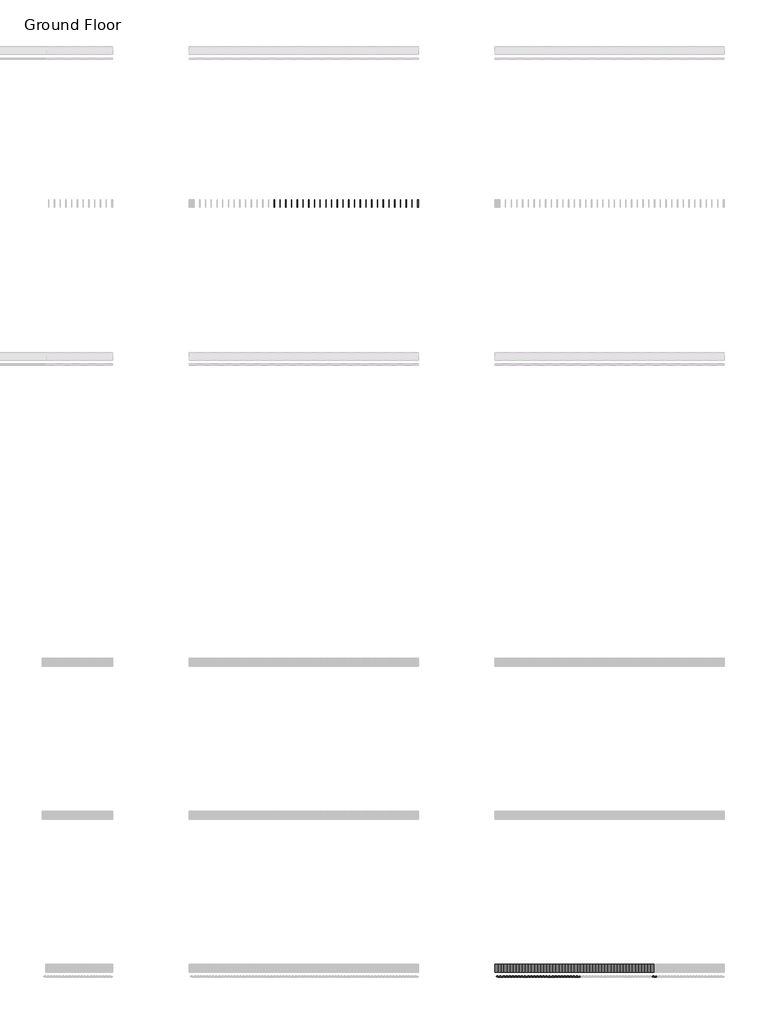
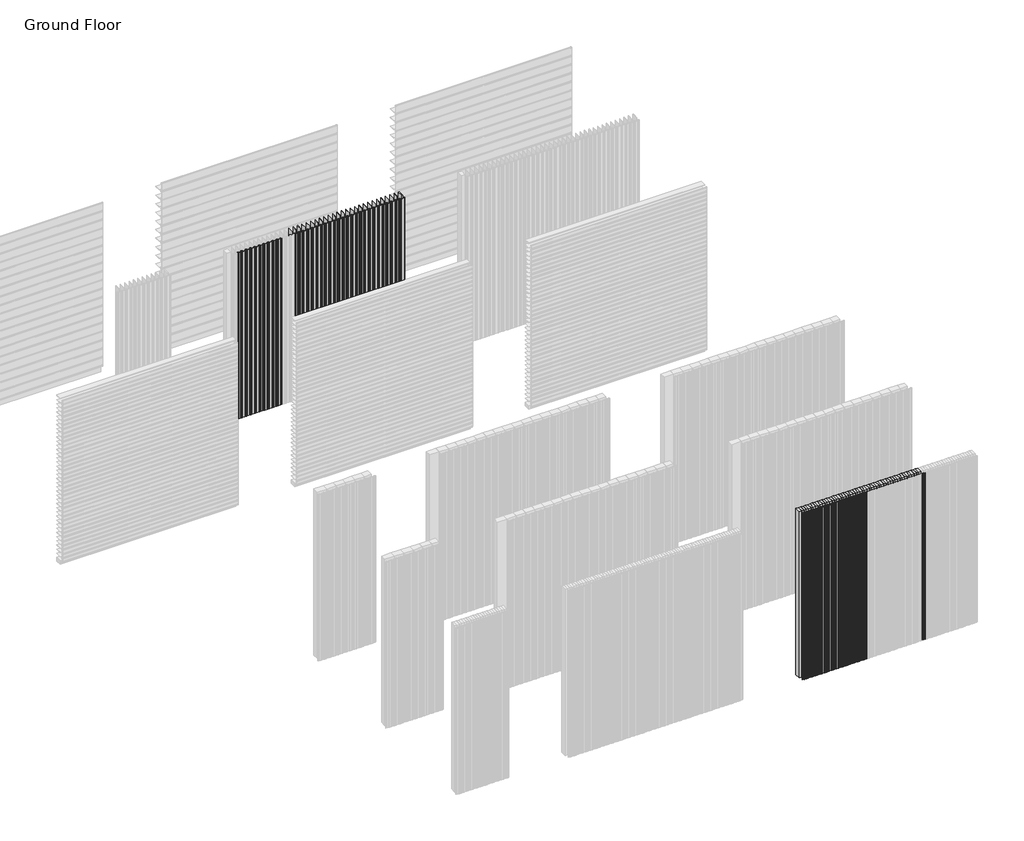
# One storey, part 34 of 350: 78 plates, 63 members.
"""IFC4 building model written with IfcOpenShell, lengths in millimetres."""

from ifc_helpers import new_model, si_unit, origin, place, context, project, spatial, transform, mapped, element, save
from components import rectangular_mullion_4c3290df, rectangular_mullion_894c3da7, empty_system_panel_empty_d822e783, empty_system_panel_empty_086c6263, empty_system_panel_empty_27b459cb, empty_system_panel_empty_8dc9dcb4

model = new_model("IFC4")

# Units and contexts
model_context = context("Model", 3, world=origin())
ifc_project = project(units=[si_unit("LENGTHUNIT", "METRE", prefix="MILLI")], contexts=[model_context])

# Site, building, storey
site = spatial("IfcSite", under=ifc_project)
building = spatial("IfcBuilding", under=site)
storey = spatial("IfcBuildingStorey", under=building, Name="Ground Floor", Elevation=0.0)

# Members
placement = place(None, origin())
rectangular_mullion_shape = rectangular_mullion_4c3290df(model_context)
element("IfcMember", 1, ObjectType="Rectangular Mullion : Cladding_Aluminium_Modinex_AluSelekta_Castelation_ScreenClad_40_WhiteOak", at=placement, inside=storey, context=model_context, shape_type="MappedRepresentation", body=[
    mapped(rectangular_mullion_shape, transform((50996.4361642, 4968.2978302, 0.0), x_axis=(1.0, 0.0, 0.0), y_axis=(0.0, -1.0, 0.0), z_axis=(0.0, 0.0, -1.0))),
])
element("IfcMember", 2, ObjectType="Rectangular Mullion : Cladding_Aluminium_Modinex_AluSelekta_Castelation_ScreenClad_40_WhiteOak", at=placement, inside=storey, context=model_context, shape_type="MappedRepresentation", body=[
    mapped(rectangular_mullion_shape, transform((49996.4361642, 4968.2978302, 0.0), x_axis=(1.0, 0.0, 0.0), y_axis=(0.0, -1.0, 0.0), z_axis=(0.0, 0.0, -1.0))),
])
element("IfcMember", 3, ObjectType="Rectangular Mullion : Cladding_Aluminium_Modinex_AluSelekta_Castelation_ScreenClad_40_WhiteOak", at=placement, inside=storey, context=model_context, shape_type="MappedRepresentation", body=[
    mapped(rectangular_mullion_shape, transform((49956.4361642, 4968.2978302, 0.0), x_axis=(1.0, 0.0, 0.0), y_axis=(0.0, -1.0, 0.0), z_axis=(0.0, 0.0, -1.0))),
])
element("IfcMember", 4, ObjectType="Rectangular Mullion : Cladding_Aluminium_Modinex_AluSelekta_Castelation_ScreenClad_40_WhiteOak", at=placement, inside=storey, context=model_context, shape_type="MappedRepresentation", body=[
    mapped(rectangular_mullion_shape, transform((49916.4361642, 4968.2978302, 0.0), x_axis=(1.0, 0.0, 0.0), y_axis=(0.0, -1.0, 0.0), z_axis=(0.0, 0.0, -1.0))),
])
element("IfcMember", 5, ObjectType="Rectangular Mullion : Cladding_Aluminium_Modinex_AluSelekta_Castelation_ScreenClad_40_WhiteOak", at=placement, inside=storey, context=model_context, shape_type="MappedRepresentation", body=[
    mapped(rectangular_mullion_shape, transform((49876.4361642, 4968.2978302, 0.0), x_axis=(1.0, 0.0, 0.0), y_axis=(0.0, -1.0, 0.0), z_axis=(0.0, 0.0, -1.0))),
])
element("IfcMember", 6, ObjectType="Rectangular Mullion : Cladding_Aluminium_Modinex_AluSelekta_Castelation_ScreenClad_40_WhiteOak", at=placement, inside=storey, context=model_context, shape_type="MappedRepresentation", body=[
    mapped(rectangular_mullion_shape, transform((49836.4361642, 4968.2978302, 0.0), x_axis=(1.0, 0.0, 0.0), y_axis=(0.0, -1.0, 0.0), z_axis=(0.0, 0.0, -1.0))),
])
element("IfcMember", 7, ObjectType="Rectangular Mullion : Cladding_Aluminium_Modinex_AluSelekta_Castelation_ScreenClad_40_WhiteOak", at=placement, inside=storey, context=model_context, shape_type="MappedRepresentation", body=[
    mapped(rectangular_mullion_shape, transform((49796.4361642, 4968.2978302, 0.0), x_axis=(1.0, 0.0, 0.0), y_axis=(0.0, -1.0, 0.0), z_axis=(0.0, 0.0, -1.0))),
])
element("IfcMember", 8, ObjectType="Rectangular Mullion : Cladding_Aluminium_Modinex_AluSelekta_Castelation_ScreenClad_40_WhiteOak", at=placement, inside=storey, context=model_context, shape_type="MappedRepresentation", body=[
    mapped(rectangular_mullion_shape, transform((49756.4361642, 4968.2978302, 0.0), x_axis=(1.0, 0.0, 0.0), y_axis=(0.0, -1.0, 0.0), z_axis=(0.0, 0.0, -1.0))),
])
element("IfcMember", 9, ObjectType="Rectangular Mullion : Cladding_Aluminium_Modinex_AluSelekta_Castelation_ScreenClad_40_WhiteOak", at=placement, inside=storey, context=model_context, shape_type="MappedRepresentation", body=[
    mapped(rectangular_mullion_shape, transform((49716.4361642, 4968.2978302, 0.0), x_axis=(1.0, 0.0, 0.0), y_axis=(0.0, -1.0, 0.0), z_axis=(0.0, 0.0, -1.0))),
])
element("IfcMember", 10, ObjectType="Rectangular Mullion : Cladding_Aluminium_Modinex_AluSelekta_Castelation_ScreenClad_40_WhiteOak", at=placement, inside=storey, context=model_context, shape_type="MappedRepresentation", body=[
    mapped(rectangular_mullion_shape, transform((49676.4361642, 4968.2978302, 0.0), x_axis=(1.0, 0.0, 0.0), y_axis=(0.0, -1.0, 0.0), z_axis=(0.0, 0.0, -1.0))),
])
element("IfcMember", 11, ObjectType="Rectangular Mullion : Cladding_Aluminium_Modinex_AluSelekta_Castelation_ScreenClad_40_WhiteOak", at=placement, inside=storey, context=model_context, shape_type="MappedRepresentation", body=[
    mapped(rectangular_mullion_shape, transform((49636.4361642, 4968.2978302, 0.0), x_axis=(1.0, 0.0, 0.0), y_axis=(0.0, -1.0, 0.0), z_axis=(0.0, 0.0, -1.0))),
])
element("IfcMember", 12, ObjectType="Rectangular Mullion : Cladding_Aluminium_Modinex_AluSelekta_Castelation_ScreenClad_40_WhiteOak", at=placement, inside=storey, context=model_context, shape_type="MappedRepresentation", body=[
    mapped(rectangular_mullion_shape, transform((49596.4361642, 4968.2978302, 0.0), x_axis=(1.0, 0.0, 0.0), y_axis=(0.0, -1.0, 0.0), z_axis=(0.0, 0.0, -1.0))),
])
element("IfcMember", 13, ObjectType="Rectangular Mullion : Cladding_Aluminium_Modinex_AluSelekta_Castelation_ScreenClad_40_WhiteOak", at=placement, inside=storey, context=model_context, shape_type="MappedRepresentation", body=[
    mapped(rectangular_mullion_shape, transform((49556.4361642, 4968.2978302, 0.0), x_axis=(1.0, 0.0, 0.0), y_axis=(0.0, -1.0, 0.0), z_axis=(0.0, 0.0, -1.0))),
])
element("IfcMember", 14, ObjectType="Rectangular Mullion : Cladding_Aluminium_Modinex_AluSelekta_Castelation_ScreenClad_40_WhiteOak", at=placement, inside=storey, context=model_context, shape_type="MappedRepresentation", body=[
    mapped(rectangular_mullion_shape, transform((49516.4361642, 4968.2978302, 0.0), x_axis=(1.0, 0.0, 0.0), y_axis=(0.0, -1.0, 0.0), z_axis=(0.0, 0.0, -1.0))),
])
element("IfcMember", 15, ObjectType="Rectangular Mullion : Cladding_Aluminium_Modinex_AluSelekta_Castelation_ScreenClad_40_WhiteOak", at=placement, inside=storey, context=model_context, shape_type="MappedRepresentation", body=[
    mapped(rectangular_mullion_shape, transform((49476.4361642, 4968.2978302, 0.0), x_axis=(1.0, 0.0, 0.0), y_axis=(0.0, -1.0, 0.0), z_axis=(0.0, 0.0, -1.0))),
])
element("IfcMember", 16, ObjectType="Rectangular Mullion : Cladding_Aluminium_Modinex_AluSelekta_Castelation_ScreenClad_40_WhiteOak", at=placement, inside=storey, context=model_context, shape_type="MappedRepresentation", body=[
    mapped(rectangular_mullion_shape, transform((49436.4361642, 4968.2978302, 0.0), x_axis=(1.0, 0.0, 0.0), y_axis=(0.0, -1.0, 0.0), z_axis=(0.0, 0.0, -1.0))),
])
element("IfcMember", 17, ObjectType="Rectangular Mullion : Cladding_Aluminium_Modinex_AluSelekta_Castelation_ScreenClad_40_WhiteOak", at=placement, inside=storey, context=model_context, shape_type="MappedRepresentation", body=[
    mapped(rectangular_mullion_shape, transform((49396.4361642, 4968.2978302, 0.0), x_axis=(1.0, 0.0, 0.0), y_axis=(0.0, -1.0, 0.0), z_axis=(0.0, 0.0, -1.0))),
])
element("IfcMember", 18, ObjectType="Rectangular Mullion : Cladding_Aluminium_Modinex_AluSelekta_Castelation_ScreenClad_40_WhiteOak", at=placement, inside=storey, context=model_context, shape_type="MappedRepresentation", body=[
    mapped(rectangular_mullion_shape, transform((49356.4361642, 4968.2978302, 0.0), x_axis=(1.0, 0.0, 0.0), y_axis=(0.0, -1.0, 0.0), z_axis=(0.0, 0.0, -1.0))),
])
element("IfcMember", 19, ObjectType="Rectangular Mullion : Cladding_Aluminium_Modinex_AluSelekta_Castelation_ScreenClad_40_WhiteOak", at=placement, inside=storey, context=model_context, shape_type="MappedRepresentation", body=[
    mapped(rectangular_mullion_shape, transform((49316.4361642, 4968.2978302, 0.0), x_axis=(1.0, 0.0, 0.0), y_axis=(0.0, -1.0, 0.0), z_axis=(0.0, 0.0, -1.0))),
])
element("IfcMember", 20, ObjectType="Rectangular Mullion : Cladding_Aluminium_Modinex_AluSelekta_Castelation_ScreenClad_40_WhiteOak", at=placement, inside=storey, context=model_context, shape_type="MappedRepresentation", body=[
    mapped(rectangular_mullion_shape, transform((49276.4361642, 4968.2978302, 0.0), x_axis=(1.0, 0.0, 0.0), y_axis=(0.0, -1.0, 0.0), z_axis=(0.0, 0.0, -1.0))),
])
element("IfcMember", 21, ObjectType="Rectangular Mullion : Cladding_Aluminium_Modinex_AluSelekta_Castelation_ScreenClad_40_WhiteOak", at=placement, inside=storey, context=model_context, shape_type="MappedRepresentation", body=[
    mapped(rectangular_mullion_shape, transform((49236.4361642, 4968.2978302, 0.0), x_axis=(1.0, 0.0, 0.0), y_axis=(0.0, -1.0, 0.0), z_axis=(0.0, 0.0, -1.0))),
])
element("IfcMember", 22, ObjectType="Rectangular Mullion : Cladding_Aluminium_Modinex_AluSelekta_Castelation_ScreenClad_40_WhiteOak", at=placement, inside=storey, context=model_context, shape_type="MappedRepresentation", body=[
    mapped(rectangular_mullion_shape, transform((49196.4361642, 4968.2978302, 0.0), x_axis=(1.0, 0.0, 0.0), y_axis=(0.0, -1.0, 0.0), z_axis=(0.0, 0.0, -1.0))),
])
element("IfcMember", 23, ObjectType="Rectangular Mullion : Cladding_Aluminium_Modinex_AluSelekta_Castelation_ScreenClad_40_WhiteOak", at=placement, inside=storey, context=model_context, shape_type="MappedRepresentation", body=[
    mapped(rectangular_mullion_shape, transform((49156.4361642, 4968.2978302, 0.0), x_axis=(1.0, 0.0, 0.0), y_axis=(0.0, -1.0, 0.0), z_axis=(0.0, 0.0, -1.0))),
])
element("IfcMember", 24, ObjectType="Rectangular Mullion : Cladding_Aluminium_Modinex_AluSelekta_Castelation_ScreenClad_40_WhiteOak", at=placement, inside=storey, context=model_context, shape_type="MappedRepresentation", body=[
    mapped(rectangular_mullion_shape, transform((49116.4361642, 4968.2978302, 0.0), x_axis=(1.0, 0.0, 0.0), y_axis=(0.0, -1.0, 0.0), z_axis=(0.0, 0.0, -1.0))),
])
element("IfcMember", 25, ObjectType="Rectangular Mullion : Cladding_Aluminium_Modinex_AluSelekta_Castelation_ScreenClad_40_WhiteOak", at=placement, inside=storey, context=model_context, shape_type="MappedRepresentation", body=[
    mapped(rectangular_mullion_shape, transform((49076.4361642, 4968.2978302, 0.0), x_axis=(1.0, 0.0, 0.0), y_axis=(0.0, -1.0, 0.0), z_axis=(0.0, 0.0, -1.0))),
])
element("IfcMember", 26, ObjectType="Rectangular Mullion : Cladding_Aluminium_Modinex_AluSelekta_Castelation_ScreenClad_40_WhiteOak", at=placement, inside=storey, context=model_context, shape_type="MappedRepresentation", body=[
    mapped(rectangular_mullion_shape, transform((49036.4361642, 4968.2978302, 0.0), x_axis=(1.0, 0.0, 0.0), y_axis=(0.0, -1.0, 0.0), z_axis=(0.0, 0.0, -1.0))),
])
element("IfcMember", 27, ObjectType="Rectangular Mullion : Cladding_Aluminium_Modinex_AluSelekta_Castelation_ScreenClad_40_WhiteOak", at=placement, inside=storey, context=model_context, shape_type="MappedRepresentation", body=[
    mapped(rectangular_mullion_shape, transform((48996.4361642, 4968.2978302, 0.0), x_axis=(1.0, 0.0, 0.0), y_axis=(0.0, -1.0, 0.0), z_axis=(0.0, 0.0, -1.0))),
])
element("IfcMember", 28, ObjectType="Rectangular Mullion : Cladding_Aluminium_Modinex_AluSelekta_Castelation_ScreenClad_40_WhiteOak", at=placement, inside=storey, context=model_context, shape_type="MappedRepresentation", body=[
    mapped(rectangular_mullion_shape, transform((48956.4361642, 4968.2978302, 0.0), x_axis=(1.0, 0.0, 0.0), y_axis=(0.0, -1.0, 0.0), z_axis=(0.0, 0.0, -1.0))),
])
rectangular_mullion_2_shape = rectangular_mullion_894c3da7(model_context)
element("IfcMember", 29, ObjectType="Rectangular Mullion : Cladding_Aluminium_Modinex_AluSelekta_Channel_75_TasmanianOak", at=placement, inside=storey, context=model_context, shape_type="MappedRepresentation", body=[
    mapped(rectangular_mullion_2_shape, transform((46566.4361642, 14968.2978302, 0.0), x_axis=(1.0, 0.0, 0.0), y_axis=(0.0, -1.0, 0.0), z_axis=(0.0, 0.0, -1.0))),
])
element("IfcMember", 30, ObjectType="Rectangular Mullion : Cladding_Aluminium_Modinex_AluSelekta_Channel_75_TasmanianOak", at=placement, inside=storey, context=model_context, shape_type="MappedRepresentation", body=[
    mapped(rectangular_mullion_2_shape, transform((46641.4361642, 14968.2978302, 0.0), x_axis=(1.0, 0.0, 0.0), y_axis=(0.0, -1.0, 0.0), z_axis=(0.0, 0.0, -1.0))),
])
element("IfcMember", 31, ObjectType="Rectangular Mullion : Cladding_Aluminium_Modinex_AluSelekta_Channel_75_TasmanianOak", at=placement, inside=storey, context=model_context, shape_type="MappedRepresentation", body=[
    mapped(rectangular_mullion_2_shape, transform((46716.4361642, 14968.2978302, 0.0), x_axis=(1.0, 0.0, 0.0), y_axis=(0.0, -1.0, 0.0), z_axis=(0.0, 0.0, -1.0))),
])
element("IfcMember", 32, ObjectType="Rectangular Mullion : Cladding_Aluminium_Modinex_AluSelekta_Channel_75_TasmanianOak", at=placement, inside=storey, context=model_context, shape_type="MappedRepresentation", body=[
    mapped(rectangular_mullion_2_shape, transform((46791.4361642, 14968.2978302, 0.0), x_axis=(1.0, 0.0, 0.0), y_axis=(0.0, -1.0, 0.0), z_axis=(0.0, 0.0, -1.0))),
])
element("IfcMember", 33, ObjectType="Rectangular Mullion : Cladding_Aluminium_Modinex_AluSelekta_Channel_75_TasmanianOak", at=placement, inside=storey, context=model_context, shape_type="MappedRepresentation", body=[
    mapped(rectangular_mullion_2_shape, transform((46866.4361642, 14968.2978302, 0.0), x_axis=(1.0, 0.0, 0.0), y_axis=(0.0, -1.0, 0.0), z_axis=(0.0, 0.0, -1.0))),
])
element("IfcMember", 34, ObjectType="Rectangular Mullion : Cladding_Aluminium_Modinex_AluSelekta_Channel_75_TasmanianOak", at=placement, inside=storey, context=model_context, shape_type="MappedRepresentation", body=[
    mapped(rectangular_mullion_2_shape, transform((46941.4361642, 14968.2978302, 0.0), x_axis=(1.0, 0.0, 0.0), y_axis=(0.0, -1.0, 0.0), z_axis=(0.0, 0.0, -1.0))),
])
element("IfcMember", 35, ObjectType="Rectangular Mullion : Cladding_Aluminium_Modinex_AluSelekta_Channel_75_TasmanianOak", at=placement, inside=storey, context=model_context, shape_type="MappedRepresentation", body=[
    mapped(rectangular_mullion_2_shape, transform((47016.4361642, 14968.2978302, 0.0), x_axis=(1.0, 0.0, 0.0), y_axis=(0.0, -1.0, 0.0), z_axis=(0.0, 0.0, -1.0))),
])
element("IfcMember", 36, ObjectType="Rectangular Mullion : Cladding_Aluminium_Modinex_AluSelekta_Channel_75_TasmanianOak", at=placement, inside=storey, context=model_context, shape_type="MappedRepresentation", body=[
    mapped(rectangular_mullion_2_shape, transform((47091.4361642, 14968.2978302, 0.0), x_axis=(1.0, 0.0, 0.0), y_axis=(0.0, -1.0, 0.0), z_axis=(0.0, 0.0, -1.0))),
])
element("IfcMember", 37, ObjectType="Rectangular Mullion : Cladding_Aluminium_Modinex_AluSelekta_Channel_75_TasmanianOak", at=placement, inside=storey, context=model_context, shape_type="MappedRepresentation", body=[
    mapped(rectangular_mullion_2_shape, transform((47166.4361642, 14968.2978302, 0.0), x_axis=(1.0, 0.0, 0.0), y_axis=(0.0, -1.0, 0.0), z_axis=(0.0, 0.0, -1.0))),
])
element("IfcMember", 38, ObjectType="Rectangular Mullion : Cladding_Aluminium_Modinex_AluSelekta_Channel_75_TasmanianOak", at=placement, inside=storey, context=model_context, shape_type="MappedRepresentation", body=[
    mapped(rectangular_mullion_2_shape, transform((47241.4361642, 14968.2978302, 0.0), x_axis=(1.0, 0.0, 0.0), y_axis=(0.0, -1.0, 0.0), z_axis=(0.0, 0.0, -1.0))),
])
element("IfcMember", 39, ObjectType="Rectangular Mullion : Cladding_Aluminium_Modinex_AluSelekta_Channel_75_TasmanianOak", at=placement, inside=storey, context=model_context, shape_type="MappedRepresentation", body=[
    mapped(rectangular_mullion_2_shape, transform((47316.4361642, 14968.2978302, 0.0), x_axis=(1.0, 0.0, 0.0), y_axis=(0.0, -1.0, 0.0), z_axis=(0.0, 0.0, -1.0))),
])
element("IfcMember", 40, ObjectType="Rectangular Mullion : Cladding_Aluminium_Modinex_AluSelekta_Channel_75_TasmanianOak", at=placement, inside=storey, context=model_context, shape_type="MappedRepresentation", body=[
    mapped(rectangular_mullion_2_shape, transform((47391.4361642, 14968.2978302, 0.0), x_axis=(1.0, 0.0, 0.0), y_axis=(0.0, -1.0, 0.0), z_axis=(0.0, 0.0, -1.0))),
])
element("IfcMember", 41, ObjectType="Rectangular Mullion : Cladding_Aluminium_Modinex_AluSelekta_Channel_75_TasmanianOak", at=placement, inside=storey, context=model_context, shape_type="MappedRepresentation", body=[
    mapped(rectangular_mullion_2_shape, transform((47466.4361642, 14968.2978302, 0.0), x_axis=(1.0, 0.0, 0.0), y_axis=(0.0, -1.0, 0.0), z_axis=(0.0, 0.0, -1.0))),
])
element("IfcMember", 42, ObjectType="Rectangular Mullion : Cladding_Aluminium_Modinex_AluSelekta_Channel_75_TasmanianOak", at=placement, inside=storey, context=model_context, shape_type="MappedRepresentation", body=[
    mapped(rectangular_mullion_2_shape, transform((47541.4361642, 14968.2978302, 0.0), x_axis=(1.0, 0.0, 0.0), y_axis=(0.0, -1.0, 0.0), z_axis=(0.0, 0.0, -1.0))),
])
element("IfcMember", 43, ObjectType="Rectangular Mullion : Cladding_Aluminium_Modinex_AluSelekta_Channel_75_TasmanianOak", at=placement, inside=storey, context=model_context, shape_type="MappedRepresentation", body=[
    mapped(rectangular_mullion_2_shape, transform((47616.4361642, 14968.2978302, 0.0), x_axis=(1.0, 0.0, 0.0), y_axis=(0.0, -1.0, 0.0), z_axis=(0.0, 0.0, -1.0))),
])
element("IfcMember", 44, ObjectType="Rectangular Mullion : Cladding_Aluminium_Modinex_AluSelekta_Channel_75_TasmanianOak", at=placement, inside=storey, context=model_context, shape_type="MappedRepresentation", body=[
    mapped(rectangular_mullion_2_shape, transform((47691.4361642, 14968.2978302, 0.0), x_axis=(1.0, 0.0, 0.0), y_axis=(0.0, -1.0, 0.0), z_axis=(0.0, 0.0, -1.0))),
])
element("IfcMember", 45, ObjectType="Rectangular Mullion : Cladding_Aluminium_Modinex_AluSelekta_Channel_75_TasmanianOak", at=placement, inside=storey, context=model_context, shape_type="MappedRepresentation", body=[
    mapped(rectangular_mullion_2_shape, transform((47766.4361642, 14968.2978302, 0.0), x_axis=(1.0, 0.0, 0.0), y_axis=(0.0, -1.0, 0.0), z_axis=(0.0, 0.0, -1.0))),
])
element("IfcMember", 46, ObjectType="Rectangular Mullion : Cladding_Aluminium_Modinex_AluSelekta_Channel_75_TasmanianOak", at=placement, inside=storey, context=model_context, shape_type="MappedRepresentation", body=[
    mapped(rectangular_mullion_2_shape, transform((47841.4361642, 14968.2978302, 0.0), x_axis=(1.0, 0.0, 0.0), y_axis=(0.0, -1.0, 0.0), z_axis=(0.0, 0.0, -1.0))),
])
element("IfcMember", 47, ObjectType="Rectangular Mullion : Cladding_Aluminium_Modinex_AluSelekta_Channel_75_TasmanianOak", at=placement, inside=storey, context=model_context, shape_type="MappedRepresentation", body=[
    mapped(rectangular_mullion_2_shape, transform((46491.4361642, 14968.2978302, 0.0), x_axis=(1.0, 0.0, 0.0), y_axis=(0.0, -1.0, 0.0), z_axis=(0.0, 0.0, -1.0))),
])
element("IfcMember", 48, ObjectType="Rectangular Mullion : Cladding_Aluminium_Modinex_AluSelekta_Channel_75_TasmanianOak", at=placement, inside=storey, context=model_context, shape_type="MappedRepresentation", body=[
    mapped(rectangular_mullion_2_shape, transform((46416.4361642, 14968.2978302, 0.0), x_axis=(1.0, 0.0, 0.0), y_axis=(0.0, -1.0, 0.0), z_axis=(0.0, 0.0, -1.0))),
])
element("IfcMember", 49, ObjectType="Rectangular Mullion : Cladding_Aluminium_Modinex_AluSelekta_Channel_75_TasmanianOak", at=placement, inside=storey, context=model_context, shape_type="MappedRepresentation", body=[
    mapped(rectangular_mullion_2_shape, transform((46341.4361642, 14968.2978302, 0.0), x_axis=(1.0, 0.0, 0.0), y_axis=(0.0, -1.0, 0.0), z_axis=(0.0, 0.0, -1.0))),
])
element("IfcMember", 50, ObjectType="Rectangular Mullion : Cladding_Aluminium_Modinex_AluSelekta_Channel_75_TasmanianOak", at=placement, inside=storey, context=model_context, shape_type="MappedRepresentation", body=[
    mapped(rectangular_mullion_2_shape, transform((46266.4361642, 14968.2978302, 0.0), x_axis=(1.0, 0.0, 0.0), y_axis=(0.0, -1.0, 0.0), z_axis=(0.0, 0.0, -1.0))),
])
element("IfcMember", 51, ObjectType="Rectangular Mullion : Cladding_Aluminium_Modinex_AluSelekta_Channel_75_TasmanianOak", at=placement, inside=storey, context=model_context, shape_type="MappedRepresentation", body=[
    mapped(rectangular_mullion_2_shape, transform((46191.4361642, 14968.2978302, 0.0), x_axis=(1.0, 0.0, 0.0), y_axis=(0.0, -1.0, 0.0), z_axis=(0.0, 0.0, -1.0))),
])
element("IfcMember", 52, ObjectType="Rectangular Mullion : Cladding_Aluminium_Modinex_AluSelekta_Channel_75_TasmanianOak", at=placement, inside=storey, context=model_context, shape_type="MappedRepresentation", body=[
    mapped(rectangular_mullion_2_shape, transform((46116.4361642, 14968.2978302, 0.0), x_axis=(1.0, 0.0, 0.0), y_axis=(0.0, -1.0, 0.0), z_axis=(0.0, 0.0, -1.0))),
])
element("IfcMember", 53, ObjectType="Rectangular Mullion : Cladding_Aluminium_Modinex_AluSelekta_Channel_75_TasmanianOak", at=placement, inside=storey, context=model_context, shape_type="MappedRepresentation", body=[
    mapped(rectangular_mullion_2_shape, transform((46041.4361642, 14968.2978302, 0.0), x_axis=(1.0, 0.0, 0.0), y_axis=(0.0, -1.0, 0.0), z_axis=(0.0, 0.0, -1.0))),
])
element("IfcMember", 54, ObjectType="Rectangular Mullion : Cladding_Aluminium_Modinex_AluSelekta_Channel_75_TasmanianOak", at=placement, inside=storey, context=model_context, shape_type="MappedRepresentation", body=[
    mapped(rectangular_mullion_2_shape, transform((45741.4361642, 14968.2978302, 0.0), x_axis=(1.0, 0.0, 0.0), y_axis=(0.0, -1.0, 0.0), z_axis=(0.0, 0.0, -1.0))),
])
element("IfcMember", 55, ObjectType="Rectangular Mullion : Cladding_Aluminium_Modinex_AluSelekta_Channel_75_TasmanianOak", at=placement, inside=storey, context=model_context, shape_type="MappedRepresentation", body=[
    mapped(rectangular_mullion_2_shape, transform((45666.4361642, 14968.2978302, 0.0), x_axis=(1.0, 0.0, 0.0), y_axis=(0.0, -1.0, 0.0), z_axis=(0.0, 0.0, -1.0))),
])
element("IfcMember", 56, ObjectType="Rectangular Mullion : Cladding_Aluminium_Modinex_AluSelekta_Channel_75_TasmanianOak", at=placement, inside=storey, context=model_context, shape_type="MappedRepresentation", body=[
    mapped(rectangular_mullion_2_shape, transform((45591.4361642, 14968.2978302, 0.0), x_axis=(1.0, 0.0, 0.0), y_axis=(0.0, -1.0, 0.0), z_axis=(0.0, 0.0, -1.0))),
])
element("IfcMember", 57, ObjectType="Rectangular Mullion : Cladding_Aluminium_Modinex_AluSelekta_Channel_75_TasmanianOak", at=placement, inside=storey, context=model_context, shape_type="MappedRepresentation", body=[
    mapped(rectangular_mullion_2_shape, transform((45516.4361642, 14968.2978302, 0.0), x_axis=(1.0, 0.0, 0.0), y_axis=(0.0, -1.0, 0.0), z_axis=(0.0, 0.0, -1.0))),
])
element("IfcMember", 58, ObjectType="Rectangular Mullion : Cladding_Aluminium_Modinex_AluSelekta_Channel_75_TasmanianOak", at=placement, inside=storey, context=model_context, shape_type="MappedRepresentation", body=[
    mapped(rectangular_mullion_2_shape, transform((45441.4361642, 14968.2978302, 0.0), x_axis=(1.0, 0.0, 0.0), y_axis=(0.0, -1.0, 0.0), z_axis=(0.0, 0.0, -1.0))),
])
element("IfcMember", 59, ObjectType="Rectangular Mullion : Cladding_Aluminium_Modinex_AluSelekta_Channel_75_TasmanianOak", at=placement, inside=storey, context=model_context, shape_type="MappedRepresentation", body=[
    mapped(rectangular_mullion_2_shape, transform((45366.4361642, 14968.2978302, 0.0), x_axis=(1.0, 0.0, 0.0), y_axis=(0.0, -1.0, 0.0), z_axis=(0.0, 0.0, -1.0))),
])
element("IfcMember", 60, ObjectType="Rectangular Mullion : Cladding_Aluminium_Modinex_AluSelekta_Channel_75_TasmanianOak", at=placement, inside=storey, context=model_context, shape_type="MappedRepresentation", body=[
    mapped(rectangular_mullion_2_shape, transform((45291.4361642, 14968.2978302, 0.0), x_axis=(1.0, 0.0, 0.0), y_axis=(0.0, -1.0, 0.0), z_axis=(0.0, 0.0, -1.0))),
])
element("IfcMember", 61, ObjectType="Rectangular Mullion : Cladding_Aluminium_Modinex_AluSelekta_Channel_75_TasmanianOak", at=placement, inside=storey, context=model_context, shape_type="MappedRepresentation", body=[
    mapped(rectangular_mullion_2_shape, transform((45216.4361642, 14968.2978302, 0.0), x_axis=(1.0, 0.0, 0.0), y_axis=(0.0, -1.0, 0.0), z_axis=(0.0, 0.0, -1.0))),
])
element("IfcMember", 62, ObjectType="Rectangular Mullion : Cladding_Aluminium_Modinex_AluSelekta_Channel_75_TasmanianOak", at=placement, inside=storey, context=model_context, shape_type="MappedRepresentation", body=[
    mapped(rectangular_mullion_2_shape, transform((45141.4361642, 14968.2978302, 0.0), x_axis=(1.0, 0.0, 0.0), y_axis=(0.0, -1.0, 0.0), z_axis=(0.0, 0.0, -1.0))),
])
element("IfcMember", 63, ObjectType="Rectangular Mullion : Cladding_Aluminium_Modinex_AluSelekta_Channel_75_TasmanianOak", at=placement, inside=storey, context=model_context, shape_type="MappedRepresentation", body=[
    mapped(rectangular_mullion_2_shape, transform((45066.4361642, 14968.2978302, 0.0), x_axis=(1.0, 0.0, 0.0), y_axis=(0.0, -1.0, 0.0), z_axis=(0.0, 0.0, -1.0))),
])

# Plates
empty_system_panel_empty_shape = empty_system_panel_empty_d822e783(model_context)
element("IfcPlate", 64, ObjectType="Empty System Panel : Empty", at=placement, inside=storey, context=model_context, shape_type="MappedRepresentation", body=[
    mapped(empty_system_panel_empty_shape, transform((48936.4361641, 4968.2978302, 0.0), x_axis=(1.0, 0.0, 0.0), y_axis=(0.0, 1.0, 0.0), z_axis=(0.0, 0.0, 1.0))),
])
empty_system_panel_empty_2_shape = empty_system_panel_empty_086c6263(model_context)
element("IfcPlate", 65, ObjectType="Empty System Panel : Empty", at=placement, inside=storey, context=model_context, shape_type="MappedRepresentation", body=[
    mapped(empty_system_panel_empty_2_shape, transform((50976.4361642, 4968.2978302, 0.0), x_axis=(1.0, 0.0, 0.0), y_axis=(0.0, 1.0, 0.0), z_axis=(0.0, 0.0, 1.0))),
])
element("IfcPlate", 66, ObjectType="Empty System Panel : Empty", at=placement, inside=storey, context=model_context, shape_type="MappedRepresentation", body=[
    mapped(empty_system_panel_empty_2_shape, transform((50936.4361642, 4968.2978302, 0.0), x_axis=(1.0, 0.0, 0.0), y_axis=(0.0, 1.0, 0.0), z_axis=(0.0, 0.0, 1.0))),
])
element("IfcPlate", 67, ObjectType="Empty System Panel : Empty", at=placement, inside=storey, context=model_context, shape_type="MappedRepresentation", body=[
    mapped(empty_system_panel_empty_2_shape, transform((50896.4361642, 4968.2978302, 0.0), x_axis=(1.0, 0.0, 0.0), y_axis=(0.0, 1.0, 0.0), z_axis=(0.0, 0.0, 1.0))),
])
element("IfcPlate", 68, ObjectType="Empty System Panel : Empty", at=placement, inside=storey, context=model_context, shape_type="MappedRepresentation", body=[
    mapped(empty_system_panel_empty_2_shape, transform((50856.4361642, 4968.2978302, 0.0), x_axis=(1.0, 0.0, 0.0), y_axis=(0.0, 1.0, 0.0), z_axis=(0.0, 0.0, 1.0))),
])
element("IfcPlate", 69, ObjectType="Empty System Panel : Empty", at=placement, inside=storey, context=model_context, shape_type="MappedRepresentation", body=[
    mapped(empty_system_panel_empty_2_shape, transform((50816.4361642, 4968.2978302, 0.0), x_axis=(1.0, 0.0, 0.0), y_axis=(0.0, 1.0, 0.0), z_axis=(0.0, 0.0, 1.0))),
])
element("IfcPlate", 70, ObjectType="Empty System Panel : Empty", at=placement, inside=storey, context=model_context, shape_type="MappedRepresentation", body=[
    mapped(empty_system_panel_empty_2_shape, transform((50776.4361642, 4968.2978302, 0.0), x_axis=(1.0, 0.0, 0.0), y_axis=(0.0, 1.0, 0.0), z_axis=(0.0, 0.0, 1.0))),
])
element("IfcPlate", 71, ObjectType="Empty System Panel : Empty", at=placement, inside=storey, context=model_context, shape_type="MappedRepresentation", body=[
    mapped(empty_system_panel_empty_2_shape, transform((50736.4361642, 4968.2978302, 0.0), x_axis=(1.0, 0.0, 0.0), y_axis=(0.0, 1.0, 0.0), z_axis=(0.0, 0.0, 1.0))),
])
element("IfcPlate", 72, ObjectType="Empty System Panel : Empty", at=placement, inside=storey, context=model_context, shape_type="MappedRepresentation", body=[
    mapped(empty_system_panel_empty_2_shape, transform((50696.4361642, 4968.2978302, 0.0), x_axis=(1.0, 0.0, 0.0), y_axis=(0.0, 1.0, 0.0), z_axis=(0.0, 0.0, 1.0))),
])
element("IfcPlate", 73, ObjectType="Empty System Panel : Empty", at=placement, inside=storey, context=model_context, shape_type="MappedRepresentation", body=[
    mapped(empty_system_panel_empty_2_shape, transform((50656.4361642, 4968.2978302, 0.0), x_axis=(1.0, 0.0, 0.0), y_axis=(0.0, 1.0, 0.0), z_axis=(0.0, 0.0, 1.0))),
])
element("IfcPlate", 74, ObjectType="Empty System Panel : Empty", at=placement, inside=storey, context=model_context, shape_type="MappedRepresentation", body=[
    mapped(empty_system_panel_empty_2_shape, transform((50616.4361642, 4968.2978302, 0.0), x_axis=(1.0, 0.0, 0.0), y_axis=(0.0, 1.0, 0.0), z_axis=(0.0, 0.0, 1.0))),
])
element("IfcPlate", 75, ObjectType="Empty System Panel : Empty", at=placement, inside=storey, context=model_context, shape_type="MappedRepresentation", body=[
    mapped(empty_system_panel_empty_2_shape, transform((50576.4361642, 4968.2978302, 0.0), x_axis=(1.0, 0.0, 0.0), y_axis=(0.0, 1.0, 0.0), z_axis=(0.0, 0.0, 1.0))),
])
element("IfcPlate", 76, ObjectType="Empty System Panel : Empty", at=placement, inside=storey, context=model_context, shape_type="MappedRepresentation", body=[
    mapped(empty_system_panel_empty_2_shape, transform((50536.4361642, 4968.2978302, 0.0), x_axis=(1.0, 0.0, 0.0), y_axis=(0.0, 1.0, 0.0), z_axis=(0.0, 0.0, 1.0))),
])
element("IfcPlate", 77, ObjectType="Empty System Panel : Empty", at=placement, inside=storey, context=model_context, shape_type="MappedRepresentation", body=[
    mapped(empty_system_panel_empty_2_shape, transform((50496.4361642, 4968.2978302, 0.0), x_axis=(1.0, 0.0, 0.0), y_axis=(0.0, 1.0, 0.0), z_axis=(0.0, 0.0, 1.0))),
])
element("IfcPlate", 78, ObjectType="Empty System Panel : Empty", at=placement, inside=storey, context=model_context, shape_type="MappedRepresentation", body=[
    mapped(empty_system_panel_empty_2_shape, transform((50456.4361642, 4968.2978302, 0.0), x_axis=(1.0, 0.0, 0.0), y_axis=(0.0, 1.0, 0.0), z_axis=(0.0, 0.0, 1.0))),
])
element("IfcPlate", 79, ObjectType="Empty System Panel : Empty", at=placement, inside=storey, context=model_context, shape_type="MappedRepresentation", body=[
    mapped(empty_system_panel_empty_2_shape, transform((50416.4361642, 4968.2978302, 0.0), x_axis=(1.0, 0.0, 0.0), y_axis=(0.0, 1.0, 0.0), z_axis=(0.0, 0.0, 1.0))),
])
element("IfcPlate", 80, ObjectType="Empty System Panel : Empty", at=placement, inside=storey, context=model_context, shape_type="MappedRepresentation", body=[
    mapped(empty_system_panel_empty_2_shape, transform((50376.4361642, 4968.2978302, 0.0), x_axis=(1.0, 0.0, 0.0), y_axis=(0.0, 1.0, 0.0), z_axis=(0.0, 0.0, 1.0))),
])
element("IfcPlate", 81, ObjectType="Empty System Panel : Empty", at=placement, inside=storey, context=model_context, shape_type="MappedRepresentation", body=[
    mapped(empty_system_panel_empty_2_shape, transform((50336.4361642, 4968.2978302, 0.0), x_axis=(1.0, 0.0, 0.0), y_axis=(0.0, 1.0, 0.0), z_axis=(0.0, 0.0, 1.0))),
])
element("IfcPlate", 82, ObjectType="Empty System Panel : Empty", at=placement, inside=storey, context=model_context, shape_type="MappedRepresentation", body=[
    mapped(empty_system_panel_empty_2_shape, transform((50296.4361642, 4968.2978302, 0.0), x_axis=(1.0, 0.0, 0.0), y_axis=(0.0, 1.0, 0.0), z_axis=(0.0, 0.0, 1.0))),
])
element("IfcPlate", 83, ObjectType="Empty System Panel : Empty", at=placement, inside=storey, context=model_context, shape_type="MappedRepresentation", body=[
    mapped(empty_system_panel_empty_2_shape, transform((50256.4361642, 4968.2978302, 0.0), x_axis=(1.0, 0.0, 0.0), y_axis=(0.0, 1.0, 0.0), z_axis=(0.0, 0.0, 1.0))),
])
element("IfcPlate", 84, ObjectType="Empty System Panel : Empty", at=placement, inside=storey, context=model_context, shape_type="MappedRepresentation", body=[
    mapped(empty_system_panel_empty_2_shape, transform((50216.4361642, 4968.2978302, 0.0), x_axis=(1.0, 0.0, 0.0), y_axis=(0.0, 1.0, 0.0), z_axis=(0.0, 0.0, 1.0))),
])
element("IfcPlate", 85, ObjectType="Empty System Panel : Empty", at=placement, inside=storey, context=model_context, shape_type="MappedRepresentation", body=[
    mapped(empty_system_panel_empty_2_shape, transform((50176.4361642, 4968.2978302, 0.0), x_axis=(1.0, 0.0, 0.0), y_axis=(0.0, 1.0, 0.0), z_axis=(0.0, 0.0, 1.0))),
])
element("IfcPlate", 86, ObjectType="Empty System Panel : Empty", at=placement, inside=storey, context=model_context, shape_type="MappedRepresentation", body=[
    mapped(empty_system_panel_empty_2_shape, transform((50136.4361642, 4968.2978302, 0.0), x_axis=(1.0, 0.0, 0.0), y_axis=(0.0, 1.0, 0.0), z_axis=(0.0, 0.0, 1.0))),
])
element("IfcPlate", 87, ObjectType="Empty System Panel : Empty", at=placement, inside=storey, context=model_context, shape_type="MappedRepresentation", body=[
    mapped(empty_system_panel_empty_2_shape, transform((50096.4361642, 4968.2978302, 0.0), x_axis=(1.0, 0.0, 0.0), y_axis=(0.0, 1.0, 0.0), z_axis=(0.0, 0.0, 1.0))),
])
element("IfcPlate", 88, ObjectType="Empty System Panel : Empty", at=placement, inside=storey, context=model_context, shape_type="MappedRepresentation", body=[
    mapped(empty_system_panel_empty_2_shape, transform((50056.4361642, 4968.2978302, 0.0), x_axis=(1.0, 0.0, 0.0), y_axis=(0.0, 1.0, 0.0), z_axis=(0.0, 0.0, 1.0))),
])
element("IfcPlate", 89, ObjectType="Empty System Panel : Empty", at=placement, inside=storey, context=model_context, shape_type="MappedRepresentation", body=[
    mapped(empty_system_panel_empty_2_shape, transform((50016.4361642, 4968.2978302, 0.0), x_axis=(1.0, 0.0, 0.0), y_axis=(0.0, 1.0, 0.0), z_axis=(0.0, 0.0, 1.0))),
])
element("IfcPlate", 90, ObjectType="Empty System Panel : Empty", at=placement, inside=storey, context=model_context, shape_type="MappedRepresentation", body=[
    mapped(empty_system_panel_empty_2_shape, transform((49976.4361642, 4968.2978302, 0.0), x_axis=(1.0, 0.0, 0.0), y_axis=(0.0, 1.0, 0.0), z_axis=(0.0, 0.0, 1.0))),
])
element("IfcPlate", 91, ObjectType="Empty System Panel : Empty", at=placement, inside=storey, context=model_context, shape_type="MappedRepresentation", body=[
    mapped(empty_system_panel_empty_2_shape, transform((49936.4361642, 4968.2978302, 0.0), x_axis=(1.0, 0.0, 0.0), y_axis=(0.0, 1.0, 0.0), z_axis=(0.0, 0.0, 1.0))),
])
element("IfcPlate", 92, ObjectType="Empty System Panel : Empty", at=placement, inside=storey, context=model_context, shape_type="MappedRepresentation", body=[
    mapped(empty_system_panel_empty_2_shape, transform((49896.4361642, 4968.2978302, 0.0), x_axis=(1.0, 0.0, 0.0), y_axis=(0.0, 1.0, 0.0), z_axis=(0.0, 0.0, 1.0))),
])
element("IfcPlate", 93, ObjectType="Empty System Panel : Empty", at=placement, inside=storey, context=model_context, shape_type="MappedRepresentation", body=[
    mapped(empty_system_panel_empty_2_shape, transform((49856.4361642, 4968.2978302, 0.0), x_axis=(1.0, 0.0, 0.0), y_axis=(0.0, 1.0, 0.0), z_axis=(0.0, 0.0, 1.0))),
])
element("IfcPlate", 94, ObjectType="Empty System Panel : Empty", at=placement, inside=storey, context=model_context, shape_type="MappedRepresentation", body=[
    mapped(empty_system_panel_empty_2_shape, transform((49816.4361642, 4968.2978302, 0.0), x_axis=(1.0, 0.0, 0.0), y_axis=(0.0, 1.0, 0.0), z_axis=(0.0, 0.0, 1.0))),
])
element("IfcPlate", 95, ObjectType="Empty System Panel : Empty", at=placement, inside=storey, context=model_context, shape_type="MappedRepresentation", body=[
    mapped(empty_system_panel_empty_2_shape, transform((49776.4361642, 4968.2978302, 0.0), x_axis=(1.0, 0.0, 0.0), y_axis=(0.0, 1.0, 0.0), z_axis=(0.0, 0.0, 1.0))),
])
element("IfcPlate", 96, ObjectType="Empty System Panel : Empty", at=placement, inside=storey, context=model_context, shape_type="MappedRepresentation", body=[
    mapped(empty_system_panel_empty_2_shape, transform((49736.4361642, 4968.2978302, 0.0), x_axis=(1.0, 0.0, 0.0), y_axis=(0.0, 1.0, 0.0), z_axis=(0.0, 0.0, 1.0))),
])
element("IfcPlate", 97, ObjectType="Empty System Panel : Empty", at=placement, inside=storey, context=model_context, shape_type="MappedRepresentation", body=[
    mapped(empty_system_panel_empty_2_shape, transform((49696.4361642, 4968.2978302, 0.0), x_axis=(1.0, 0.0, 0.0), y_axis=(0.0, 1.0, 0.0), z_axis=(0.0, 0.0, 1.0))),
])
element("IfcPlate", 98, ObjectType="Empty System Panel : Empty", at=placement, inside=storey, context=model_context, shape_type="MappedRepresentation", body=[
    mapped(empty_system_panel_empty_2_shape, transform((49656.4361642, 4968.2978302, 0.0), x_axis=(1.0, 0.0, 0.0), y_axis=(0.0, 1.0, 0.0), z_axis=(0.0, 0.0, 1.0))),
])
element("IfcPlate", 99, ObjectType="Empty System Panel : Empty", at=placement, inside=storey, context=model_context, shape_type="MappedRepresentation", body=[
    mapped(empty_system_panel_empty_2_shape, transform((49616.4361642, 4968.2978302, 0.0), x_axis=(1.0, 0.0, 0.0), y_axis=(0.0, 1.0, 0.0), z_axis=(0.0, 0.0, 1.0))),
])
element("IfcPlate", 100, ObjectType="Empty System Panel : Empty", at=placement, inside=storey, context=model_context, shape_type="MappedRepresentation", body=[
    mapped(empty_system_panel_empty_2_shape, transform((49576.4361642, 4968.2978302, 0.0), x_axis=(1.0, 0.0, 0.0), y_axis=(0.0, 1.0, 0.0), z_axis=(0.0, 0.0, 1.0))),
])
element("IfcPlate", 101, ObjectType="Empty System Panel : Empty", at=placement, inside=storey, context=model_context, shape_type="MappedRepresentation", body=[
    mapped(empty_system_panel_empty_2_shape, transform((49536.4361642, 4968.2978302, 0.0), x_axis=(1.0, 0.0, 0.0), y_axis=(0.0, 1.0, 0.0), z_axis=(0.0, 0.0, 1.0))),
])
element("IfcPlate", 102, ObjectType="Empty System Panel : Empty", at=placement, inside=storey, context=model_context, shape_type="MappedRepresentation", body=[
    mapped(empty_system_panel_empty_2_shape, transform((49496.4361642, 4968.2978302, 0.0), x_axis=(1.0, 0.0, 0.0), y_axis=(0.0, 1.0, 0.0), z_axis=(0.0, 0.0, 1.0))),
])
element("IfcPlate", 103, ObjectType="Empty System Panel : Empty", at=placement, inside=storey, context=model_context, shape_type="MappedRepresentation", body=[
    mapped(empty_system_panel_empty_2_shape, transform((49456.4361642, 4968.2978302, 0.0), x_axis=(1.0, 0.0, 0.0), y_axis=(0.0, 1.0, 0.0), z_axis=(0.0, 0.0, 1.0))),
])
element("IfcPlate", 104, ObjectType="Empty System Panel : Empty", at=placement, inside=storey, context=model_context, shape_type="MappedRepresentation", body=[
    mapped(empty_system_panel_empty_2_shape, transform((49416.4361642, 4968.2978302, 0.0), x_axis=(1.0, 0.0, 0.0), y_axis=(0.0, 1.0, 0.0), z_axis=(0.0, 0.0, 1.0))),
])
element("IfcPlate", 105, ObjectType="Empty System Panel : Empty", at=placement, inside=storey, context=model_context, shape_type="MappedRepresentation", body=[
    mapped(empty_system_panel_empty_2_shape, transform((49376.4361642, 4968.2978302, 0.0), x_axis=(1.0, 0.0, 0.0), y_axis=(0.0, 1.0, 0.0), z_axis=(0.0, 0.0, 1.0))),
])
element("IfcPlate", 106, ObjectType="Empty System Panel : Empty", at=placement, inside=storey, context=model_context, shape_type="MappedRepresentation", body=[
    mapped(empty_system_panel_empty_2_shape, transform((49336.4361642, 4968.2978302, 0.0), x_axis=(1.0, 0.0, 0.0), y_axis=(0.0, 1.0, 0.0), z_axis=(0.0, 0.0, 1.0))),
])
element("IfcPlate", 107, ObjectType="Empty System Panel : Empty", at=placement, inside=storey, context=model_context, shape_type="MappedRepresentation", body=[
    mapped(empty_system_panel_empty_2_shape, transform((49296.4361642, 4968.2978302, 0.0), x_axis=(1.0, 0.0, 0.0), y_axis=(0.0, 1.0, 0.0), z_axis=(0.0, 0.0, 1.0))),
])
element("IfcPlate", 108, ObjectType="Empty System Panel : Empty", at=placement, inside=storey, context=model_context, shape_type="MappedRepresentation", body=[
    mapped(empty_system_panel_empty_2_shape, transform((49256.4361642, 4968.2978302, 0.0), x_axis=(1.0, 0.0, 0.0), y_axis=(0.0, 1.0, 0.0), z_axis=(0.0, 0.0, 1.0))),
])
element("IfcPlate", 109, ObjectType="Empty System Panel : Empty", at=placement, inside=storey, context=model_context, shape_type="MappedRepresentation", body=[
    mapped(empty_system_panel_empty_2_shape, transform((49216.4361642, 4968.2978302, 0.0), x_axis=(1.0, 0.0, 0.0), y_axis=(0.0, 1.0, 0.0), z_axis=(0.0, 0.0, 1.0))),
])
element("IfcPlate", 110, ObjectType="Empty System Panel : Empty", at=placement, inside=storey, context=model_context, shape_type="MappedRepresentation", body=[
    mapped(empty_system_panel_empty_2_shape, transform((49176.4361642, 4968.2978302, 0.0), x_axis=(1.0, 0.0, 0.0), y_axis=(0.0, 1.0, 0.0), z_axis=(0.0, 0.0, 1.0))),
])
element("IfcPlate", 111, ObjectType="Empty System Panel : Empty", at=placement, inside=storey, context=model_context, shape_type="MappedRepresentation", body=[
    mapped(empty_system_panel_empty_2_shape, transform((49136.4361642, 4968.2978302, 0.0), x_axis=(1.0, 0.0, 0.0), y_axis=(0.0, 1.0, 0.0), z_axis=(0.0, 0.0, 1.0))),
])
element("IfcPlate", 112, ObjectType="Empty System Panel : Empty", at=placement, inside=storey, context=model_context, shape_type="MappedRepresentation", body=[
    mapped(empty_system_panel_empty_2_shape, transform((49096.4361642, 4968.2978302, 0.0), x_axis=(1.0, 0.0, 0.0), y_axis=(0.0, 1.0, 0.0), z_axis=(0.0, 0.0, 1.0))),
])
element("IfcPlate", 113, ObjectType="Empty System Panel : Empty", at=placement, inside=storey, context=model_context, shape_type="MappedRepresentation", body=[
    mapped(empty_system_panel_empty_2_shape, transform((49056.4361642, 4968.2978302, 0.0), x_axis=(1.0, 0.0, 0.0), y_axis=(0.0, 1.0, 0.0), z_axis=(0.0, 0.0, 1.0))),
])
element("IfcPlate", 114, ObjectType="Empty System Panel : Empty", at=placement, inside=storey, context=model_context, shape_type="MappedRepresentation", body=[
    mapped(empty_system_panel_empty_2_shape, transform((49016.4361642, 4968.2978302, 0.0), x_axis=(1.0, 0.0, 0.0), y_axis=(0.0, 1.0, 0.0), z_axis=(0.0, 0.0, 1.0))),
])
element("IfcPlate", 115, ObjectType="Empty System Panel : Empty", at=placement, inside=storey, context=model_context, shape_type="MappedRepresentation", body=[
    mapped(empty_system_panel_empty_2_shape, transform((48976.4361642, 4968.2978302, 0.0), x_axis=(1.0, 0.0, 0.0), y_axis=(0.0, 1.0, 0.0), z_axis=(0.0, 0.0, 1.0))),
])
empty_system_panel_empty_3_shape = empty_system_panel_empty_27b459cb(model_context)
element("IfcPlate", 116, ObjectType="Empty System Panel : Empty", at=placement, inside=storey, context=model_context, shape_type="MappedRepresentation", body=[
    mapped(empty_system_panel_empty_3_shape, transform((46629.9529326, 14968.2978302, 0.0), x_axis=(1.0, 0.0, 0.0), y_axis=(0.0, 1.0, 0.0), z_axis=(0.0, 0.0, 1.0))),
])
element("IfcPlate", 117, ObjectType="Empty System Panel : Empty", at=placement, inside=storey, context=model_context, shape_type="MappedRepresentation", body=[
    mapped(empty_system_panel_empty_3_shape, transform((46704.9529326, 14968.2978302, 0.0), x_axis=(1.0, 0.0, 0.0), y_axis=(0.0, 1.0, 0.0), z_axis=(0.0, 0.0, 1.0))),
])
element("IfcPlate", 118, ObjectType="Empty System Panel : Empty", at=placement, inside=storey, context=model_context, shape_type="MappedRepresentation", body=[
    mapped(empty_system_panel_empty_3_shape, transform((46779.9529326, 14968.2978302, 0.0), x_axis=(1.0, 0.0, 0.0), y_axis=(0.0, 1.0, 0.0), z_axis=(0.0, 0.0, 1.0))),
])
element("IfcPlate", 119, ObjectType="Empty System Panel : Empty", at=placement, inside=storey, context=model_context, shape_type="MappedRepresentation", body=[
    mapped(empty_system_panel_empty_3_shape, transform((46854.9529326, 14968.2978302, 0.0), x_axis=(1.0, 0.0, 0.0), y_axis=(0.0, 1.0, 0.0), z_axis=(0.0, 0.0, 1.0))),
])
element("IfcPlate", 120, ObjectType="Empty System Panel : Empty", at=placement, inside=storey, context=model_context, shape_type="MappedRepresentation", body=[
    mapped(empty_system_panel_empty_3_shape, transform((46929.9529326, 14968.2978302, 0.0), x_axis=(1.0, 0.0, 0.0), y_axis=(0.0, 1.0, 0.0), z_axis=(0.0, 0.0, 1.0))),
])
element("IfcPlate", 121, ObjectType="Empty System Panel : Empty", at=placement, inside=storey, context=model_context, shape_type="MappedRepresentation", body=[
    mapped(empty_system_panel_empty_3_shape, transform((47004.9529326, 14968.2978302, 0.0), x_axis=(1.0, 0.0, 0.0), y_axis=(0.0, 1.0, 0.0), z_axis=(0.0, 0.0, 1.0))),
])
element("IfcPlate", 122, ObjectType="Empty System Panel : Empty", at=placement, inside=storey, context=model_context, shape_type="MappedRepresentation", body=[
    mapped(empty_system_panel_empty_3_shape, transform((47079.9529326, 14968.2978302, 0.0), x_axis=(1.0, 0.0, 0.0), y_axis=(0.0, 1.0, 0.0), z_axis=(0.0, 0.0, 1.0))),
])
element("IfcPlate", 123, ObjectType="Empty System Panel : Empty", at=placement, inside=storey, context=model_context, shape_type="MappedRepresentation", body=[
    mapped(empty_system_panel_empty_3_shape, transform((47154.9529326, 14968.2978302, 0.0), x_axis=(1.0, 0.0, 0.0), y_axis=(0.0, 1.0, 0.0), z_axis=(0.0, 0.0, 1.0))),
])
element("IfcPlate", 124, ObjectType="Empty System Panel : Empty", at=placement, inside=storey, context=model_context, shape_type="MappedRepresentation", body=[
    mapped(empty_system_panel_empty_3_shape, transform((47229.9529326, 14968.2978302, 0.0), x_axis=(1.0, 0.0, 0.0), y_axis=(0.0, 1.0, 0.0), z_axis=(0.0, 0.0, 1.0))),
])
element("IfcPlate", 125, ObjectType="Empty System Panel : Empty", at=placement, inside=storey, context=model_context, shape_type="MappedRepresentation", body=[
    mapped(empty_system_panel_empty_3_shape, transform((47304.9529326, 14968.2978302, 0.0), x_axis=(1.0, 0.0, 0.0), y_axis=(0.0, 1.0, 0.0), z_axis=(0.0, 0.0, 1.0))),
])
element("IfcPlate", 126, ObjectType="Empty System Panel : Empty", at=placement, inside=storey, context=model_context, shape_type="MappedRepresentation", body=[
    mapped(empty_system_panel_empty_3_shape, transform((47379.9529326, 14968.2978302, 0.0), x_axis=(1.0, 0.0, 0.0), y_axis=(0.0, 1.0, 0.0), z_axis=(0.0, 0.0, 1.0))),
])
element("IfcPlate", 127, ObjectType="Empty System Panel : Empty", at=placement, inside=storey, context=model_context, shape_type="MappedRepresentation", body=[
    mapped(empty_system_panel_empty_3_shape, transform((47454.9529326, 14968.2978302, 0.0), x_axis=(1.0, 0.0, 0.0), y_axis=(0.0, 1.0, 0.0), z_axis=(0.0, 0.0, 1.0))),
])
element("IfcPlate", 128, ObjectType="Empty System Panel : Empty", at=placement, inside=storey, context=model_context, shape_type="MappedRepresentation", body=[
    mapped(empty_system_panel_empty_3_shape, transform((47529.9529326, 14968.2978302, 0.0), x_axis=(1.0, 0.0, 0.0), y_axis=(0.0, 1.0, 0.0), z_axis=(0.0, 0.0, 1.0))),
])
element("IfcPlate", 129, ObjectType="Empty System Panel : Empty", at=placement, inside=storey, context=model_context, shape_type="MappedRepresentation", body=[
    mapped(empty_system_panel_empty_3_shape, transform((47604.9529326, 14968.2978302, 0.0), x_axis=(1.0, 0.0, 0.0), y_axis=(0.0, 1.0, 0.0), z_axis=(0.0, 0.0, 1.0))),
])
element("IfcPlate", 130, ObjectType="Empty System Panel : Empty", at=placement, inside=storey, context=model_context, shape_type="MappedRepresentation", body=[
    mapped(empty_system_panel_empty_3_shape, transform((47679.9529326, 14968.2978302, 0.0), x_axis=(1.0, 0.0, 0.0), y_axis=(0.0, 1.0, 0.0), z_axis=(0.0, 0.0, 1.0))),
])
element("IfcPlate", 131, ObjectType="Empty System Panel : Empty", at=placement, inside=storey, context=model_context, shape_type="MappedRepresentation", body=[
    mapped(empty_system_panel_empty_3_shape, transform((47754.9529326, 14968.2978302, 0.0), x_axis=(1.0, 0.0, 0.0), y_axis=(0.0, 1.0, 0.0), z_axis=(0.0, 0.0, 1.0))),
])
element("IfcPlate", 132, ObjectType="Empty System Panel : Empty", at=placement, inside=storey, context=model_context, shape_type="MappedRepresentation", body=[
    mapped(empty_system_panel_empty_3_shape, transform((47829.9529326, 14968.2978302, 0.0), x_axis=(1.0, 0.0, 0.0), y_axis=(0.0, 1.0, 0.0), z_axis=(0.0, 0.0, 1.0))),
])
element("IfcPlate", 133, ObjectType="Empty System Panel : Empty", at=placement, inside=storey, context=model_context, shape_type="MappedRepresentation", body=[
    mapped(empty_system_panel_empty_3_shape, transform((46554.9529326, 14968.2978302, 0.0), x_axis=(1.0, 0.0, 0.0), y_axis=(0.0, 1.0, 0.0), z_axis=(0.0, 0.0, 1.0))),
])
element("IfcPlate", 134, ObjectType="Empty System Panel : Empty", at=placement, inside=storey, context=model_context, shape_type="MappedRepresentation", body=[
    mapped(empty_system_panel_empty_3_shape, transform((46479.9529326, 14968.2978302, 0.0), x_axis=(1.0, 0.0, 0.0), y_axis=(0.0, 1.0, 0.0), z_axis=(0.0, 0.0, 1.0))),
])
element("IfcPlate", 135, ObjectType="Empty System Panel : Empty", at=placement, inside=storey, context=model_context, shape_type="MappedRepresentation", body=[
    mapped(empty_system_panel_empty_3_shape, transform((46404.9529326, 14968.2978302, 0.0), x_axis=(1.0, 0.0, 0.0), y_axis=(0.0, 1.0, 0.0), z_axis=(0.0, 0.0, 1.0))),
])
element("IfcPlate", 136, ObjectType="Empty System Panel : Empty", at=placement, inside=storey, context=model_context, shape_type="MappedRepresentation", body=[
    mapped(empty_system_panel_empty_3_shape, transform((46329.9529326, 14968.2978302, 0.0), x_axis=(1.0, 0.0, 0.0), y_axis=(0.0, 1.0, 0.0), z_axis=(0.0, 0.0, 1.0))),
])
element("IfcPlate", 137, ObjectType="Empty System Panel : Empty", at=placement, inside=storey, context=model_context, shape_type="MappedRepresentation", body=[
    mapped(empty_system_panel_empty_3_shape, transform((46254.9529326, 14968.2978302, 0.0), x_axis=(1.0, 0.0, 0.0), y_axis=(0.0, 1.0, 0.0), z_axis=(0.0, 0.0, 1.0))),
])
element("IfcPlate", 138, ObjectType="Empty System Panel : Empty", at=placement, inside=storey, context=model_context, shape_type="MappedRepresentation", body=[
    mapped(empty_system_panel_empty_3_shape, transform((46179.9529326, 14968.2978302, 0.0), x_axis=(1.0, 0.0, 0.0), y_axis=(0.0, 1.0, 0.0), z_axis=(0.0, 0.0, 1.0))),
])
element("IfcPlate", 139, ObjectType="Empty System Panel : Empty", at=placement, inside=storey, context=model_context, shape_type="MappedRepresentation", body=[
    mapped(empty_system_panel_empty_3_shape, transform((46104.9529326, 14968.2978302, 0.0), x_axis=(1.0, 0.0, 0.0), y_axis=(0.0, 1.0, 0.0), z_axis=(0.0, 0.0, 1.0))),
])
element("IfcPlate", 140, ObjectType="Empty System Panel : Empty", at=placement, inside=storey, context=model_context, shape_type="MappedRepresentation", body=[
    mapped(empty_system_panel_empty_3_shape, transform((46029.9529326, 14968.2978302, 0.0), x_axis=(1.0, 0.0, 0.0), y_axis=(0.0, 1.0, 0.0), z_axis=(0.0, 0.0, 1.0))),
])
empty_system_panel_empty_4_shape = empty_system_panel_empty_8dc9dcb4(model_context)
element("IfcPlate", 141, ObjectType="Empty System Panel : Empty", at=placement, inside=storey, context=model_context, shape_type="MappedRepresentation", body=[
    mapped(empty_system_panel_empty_4_shape, transform((47910.0652122, 14968.2978302, 0.0), x_axis=(1.0, 0.0, 0.0), y_axis=(0.0, 1.0, 0.0), z_axis=(0.0, 0.0, 1.0))),
])

save(model, "model.ifc")
